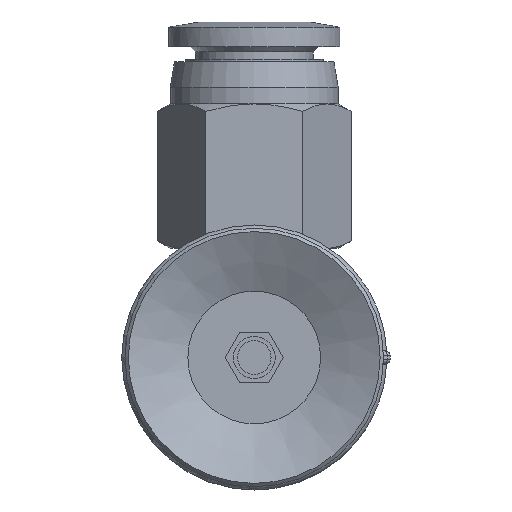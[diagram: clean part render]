
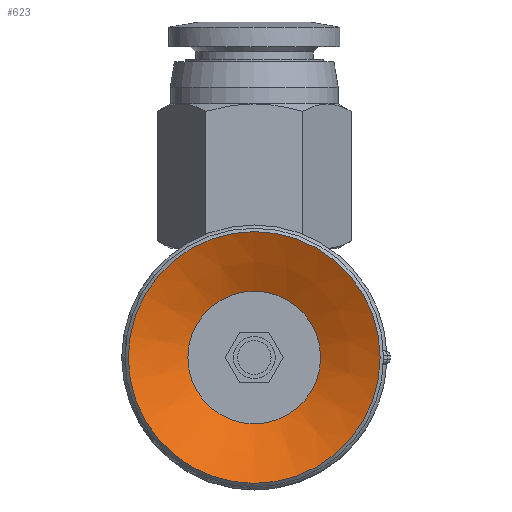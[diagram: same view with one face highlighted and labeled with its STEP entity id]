
A CAD part, front view. The second image highlights one B-rep face of the part: STEP entity #623.
In plain terms, the highlighted conical face has half-angle 64 degrees and reference radius 3.95 mm.
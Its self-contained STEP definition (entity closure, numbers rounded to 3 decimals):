
#623=ADVANCED_FACE('',(#959,#960),#961,.F.);
#959=FACE_BOUND('',#1489,.T.);
#960=FACE_OUTER_BOUND('',#1490,.T.);
#961=CONICAL_SURFACE('',#1491,3.95,1.117);
#1489=EDGE_LOOP('',(#2609));
#1490=EDGE_LOOP('',(#2610));
#1491=AXIS2_PLACEMENT_3D('',#2611,#2612,#2613);
#2609=ORIENTED_EDGE('',*,*,#3231,.F.);
#2610=ORIENTED_EDGE('',*,*,#3232,.T.);
#2611=CARTESIAN_POINT('',(0.0,-29.404,-47.168));
#2612=DIRECTION('',(-0.0,0.,1.0));
#2613=DIRECTION('',(0.0,-1.0,0.));
#3231=EDGE_CURVE('',#3687,#3687,#3688,.T.);
#3232=EDGE_CURVE('',#3689,#3689,#3690,.T.);
#3687=VERTEX_POINT('',#4616);
#3688=CIRCLE('',#4617,3.95);
#3689=VERTEX_POINT('',#4618);
#3690=CIRCLE('',#4619,7.5);
#4616=CARTESIAN_POINT('',(0.0,-33.354,-47.168));
#4617=AXIS2_PLACEMENT_3D('',#5438,#5439,#5440);
#4618=CARTESIAN_POINT('',(0.0,-36.904,-45.437));
#4619=AXIS2_PLACEMENT_3D('',#5441,#5442,#5443);
#5438=CARTESIAN_POINT('',(0.0,-29.404,-47.168));
#5439=DIRECTION('',(0.0,0.,1.0));
#5440=DIRECTION('',(0.0,-1.0,0.));
#5441=CARTESIAN_POINT('',(0.0,-29.404,-45.437));
#5442=DIRECTION('',(0.0,0.,1.0));
#5443=DIRECTION('',(0.0,-1.0,0.));
